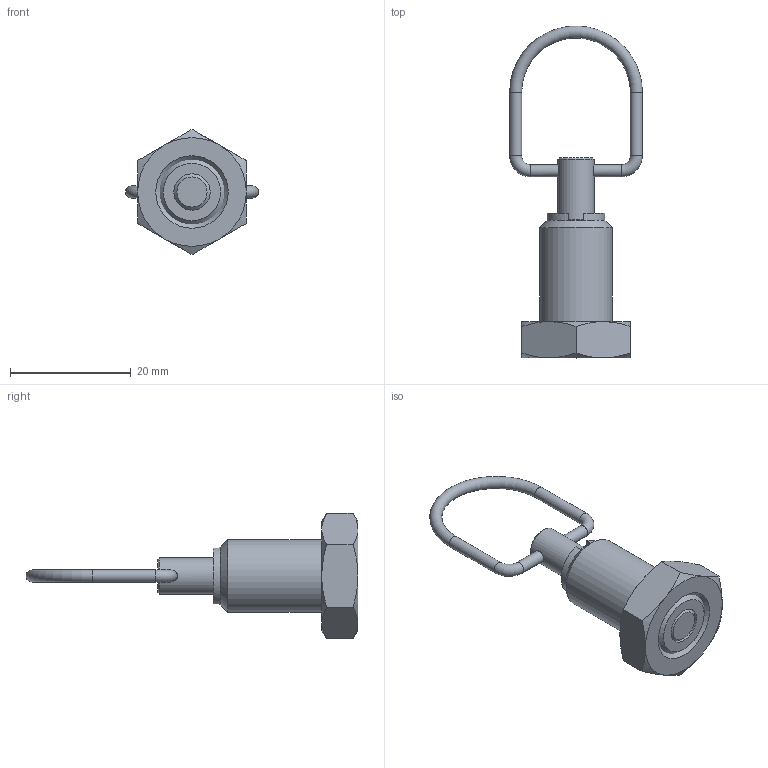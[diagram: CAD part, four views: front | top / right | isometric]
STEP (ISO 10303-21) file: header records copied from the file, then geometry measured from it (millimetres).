
FILE_DESCRIPTION( ( 'STEP AP203' ), '1' );
FILE_NAME( 'C:/Temp/Ganter_Step_05_03_2020/data/3_1/gn_413/gn413_st/gn413_st_ak/Steel-Indexing plunger GN 413-6-M12x1,5-AK-ST (activated-0).stp', '2020-03-12T09:10:29', ( 'License CC BY-ND 4.0' ), ( 'CADENAS' ), ' ', 'PARTsolutions', ' ' );
FILE_SCHEMA( ( 'CONFIG_CONTROL_DESIGN' ) );
Length unit declared in the file: millimetre
Products named in the file (4): Steel-Indexing plunger GN 413-6-M12x1,5-AK-ST (activated-0); _Steel-Indexing plunger  GN 413-6-M12-AK-ST (activated)_f; _Steel-Indexing plunger GN 413-6-M12-AK-ST (activated)_b; _Steel-Indexing plunger GN 413-6-M12-AK-ST (activated)_km
Assembly tree (3 placements, depth 2):
  Steel-Indexing plunger GN 413-6-M12x1,5-AK-ST (activated-0)
    _Steel-Indexing plunger  GN 413-6-M12-AK-ST (activated)_f
    _Steel-Indexing plunger GN 413-6-M12-AK-ST (activated)_b
    _Steel-Indexing plunger GN 413-6-M12-AK-ST (activated)_km
Bounding box: 22 x 54.99 x 20.78 mm (x, y, z)
Volume: 4072.3 mm3; surface area: 3616.2 mm2
Topology: 3 solids, 3 shells, 63 faces, 135 edges, 82 vertices
Faces by surface type: plane 24, cone 22, cylinder 14, torus 3
Full cylindrical faces by diameter (mm): 2 x4, 6 x4, 6.3 x1, 8 x2, 9.6 x1, 10.106 x1, 12 x1
Entity records: 1823 total; most frequent: CARTESIAN_POINT 459, DIRECTION 262, ORIENTED_EDGE 214, AXIS2_PLACEMENT_3D 120, EDGE_CURVE 107, EDGE_LOOP 96, FACE_OUTER_BOUND 80, VERTEX_POINT 77
